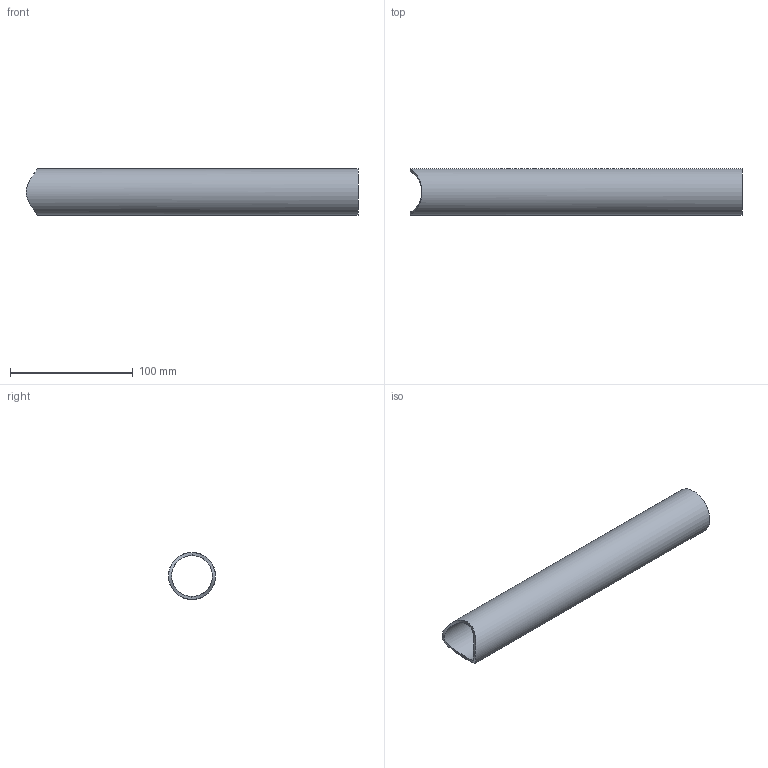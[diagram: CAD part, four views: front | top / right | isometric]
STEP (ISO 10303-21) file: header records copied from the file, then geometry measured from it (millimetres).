
FILE_DESCRIPTION(/* description */ (''),/* implementation_level */ '2;1');
FILE_NAME(/* name */ 'B2 Straight joint_developed.step',/* time_stamp */ '2026-10-26T11:43:45-04:00',/* author */ (''),/* organization */ (''),/* preprocessor_version */ 'ST-DEVELOPER v20.2',/* originating_system */ 'Autodesk Translation Framework v15.17.0.0',/* authorisation */ '');
FILE_SCHEMA (('AUTOMOTIVE_DESIGN { 1 0 10303 214 3 1 1 }'));
Length unit declared in the file: inch
Products named in the file (1): 2026-10-26-11-43-43-722
Bounding box: 270.02 x 38.1 x 38.1 mm (x, y, z)
Volume: 71473.3 mm3; surface area: 59921.3 mm2
Topology: 1 solids, 1 shells, 5 faces, 12 edges, 8 vertices
Faces by surface type: bspline 2, cylinder 2, plane 1
Full cylindrical faces by diameter (mm): 33.274 x1, 38.1 x1
Entity records: 2218 total; most frequent: CARTESIAN_POINT 2075, ORIENTED_EDGE 24, DIRECTION 16, EDGE_CURVE 12, VERTEX_POINT 8, EDGE_LOOP 6, B_SPLINE_CURVE_WITH_KNOTS 6, AXIS2_PLACEMENT_3D 6
